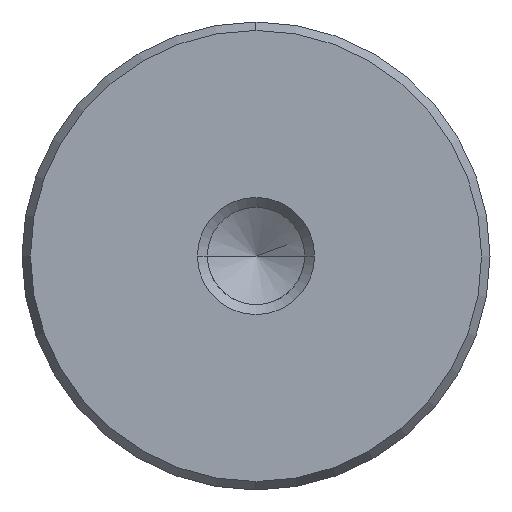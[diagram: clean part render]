
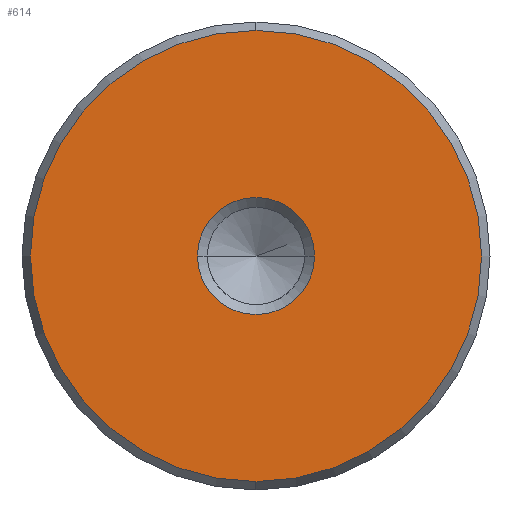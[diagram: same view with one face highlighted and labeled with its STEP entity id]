
A CAD part, left-side view. The second image highlights one B-rep face of the part: STEP entity #614.
In plain terms, the highlighted planar face has unit normal (-1, 0, 0).
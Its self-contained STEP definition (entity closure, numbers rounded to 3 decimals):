
#528=CARTESIAN_POINT('Vertex',(0.,0.,-15.423)) ;
#531=CARTESIAN_POINT('Axis2P3D Location',(0.,0.,0.)) ;
#535=CARTESIAN_POINT('Vertex',(0.,15.423,0.)) ;
#538=CARTESIAN_POINT('Axis2P3D Location',(0.,0.,0.)) ;
#542=CARTESIAN_POINT('Vertex',(0.,0.,15.423)) ;
#564=CARTESIAN_POINT('Axis2P3D Location',(0.,0.,0.)) ;
#568=CARTESIAN_POINT('Vertex',(0.,-15.423,0.)) ;
#571=CARTESIAN_POINT('Axis2P3D Location',(0.,0.,0.)) ;
#585=CARTESIAN_POINT('Axis2P3D Location',(0.,0.,0.)) ;
#596=CARTESIAN_POINT('Axis2P3D Location',(0.,0.,0.)) ;
#600=CARTESIAN_POINT('Vertex',(0.,4.,0.)) ;
#602=CARTESIAN_POINT('Vertex',(0.,-4.,0.)) ;
#605=CARTESIAN_POINT('Axis2P3D Location',(0.,0.,0.)) ;
#532=DIRECTION('Axis2P3D Direction',(1.,0.,-0.)) ;
#539=DIRECTION('Axis2P3D Direction',(1.,0.,-0.)) ;
#565=DIRECTION('Axis2P3D Direction',(1.,0.,-0.)) ;
#572=DIRECTION('Axis2P3D Direction',(1.,0.,-0.)) ;
#586=DIRECTION('Axis2P3D Direction',(1.,0.,-0.)) ;
#587=DIRECTION('Axis2P3D XDirection',(-0.,0.,-1.)) ;
#597=DIRECTION('Axis2P3D Direction',(1.,0.,-0.)) ;
#606=DIRECTION('Axis2P3D Direction',(1.,0.,-0.)) ;
#533=AXIS2_PLACEMENT_3D('Circle Axis2P3D',#531,#532,$) ;
#540=AXIS2_PLACEMENT_3D('Circle Axis2P3D',#538,#539,$) ;
#566=AXIS2_PLACEMENT_3D('Circle Axis2P3D',#564,#565,$) ;
#573=AXIS2_PLACEMENT_3D('Circle Axis2P3D',#571,#572,$) ;
#588=AXIS2_PLACEMENT_3D('Plane Axis2P3D',#585,#586,#587) ;
#598=AXIS2_PLACEMENT_3D('Circle Axis2P3D',#596,#597,$) ;
#607=AXIS2_PLACEMENT_3D('Circle Axis2P3D',#605,#606,$) ;
#591=ORIENTED_EDGE('',*,*,#537,.F.) ;
#592=ORIENTED_EDGE('',*,*,#575,.F.) ;
#593=ORIENTED_EDGE('',*,*,#570,.F.) ;
#594=ORIENTED_EDGE('',*,*,#544,.F.) ;
#611=ORIENTED_EDGE('',*,*,#604,.T.) ;
#612=ORIENTED_EDGE('',*,*,#609,.T.) ;
#613=FACE_BOUND('',#610,.T.) ;
#614=ADVANCED_FACE('720-32x250',(#595,#613),#589,.F.) ;
#534=CIRCLE('generated circle',#533,15.423) ;
#541=CIRCLE('generated circle',#540,15.423) ;
#567=CIRCLE('generated circle',#566,15.423) ;
#574=CIRCLE('generated circle',#573,15.423) ;
#599=CIRCLE('generated circle',#598,4.) ;
#608=CIRCLE('generated circle',#607,4.) ;
#537=EDGE_CURVE('',#529,#536,#534,.T.) ;
#544=EDGE_CURVE('',#536,#543,#541,.T.) ;
#570=EDGE_CURVE('',#543,#569,#567,.T.) ;
#575=EDGE_CURVE('',#569,#529,#574,.T.) ;
#604=EDGE_CURVE('',#601,#603,#599,.T.) ;
#609=EDGE_CURVE('',#603,#601,#608,.T.) ;
#590=EDGE_LOOP('',(#591,#592,#593,#594)) ;
#610=EDGE_LOOP('',(#611,#612)) ;
#595=FACE_OUTER_BOUND('',#590,.T.) ;
#589=PLANE('Plane',#588) ;
#529=VERTEX_POINT('',#528) ;
#536=VERTEX_POINT('',#535) ;
#543=VERTEX_POINT('',#542) ;
#569=VERTEX_POINT('',#568) ;
#601=VERTEX_POINT('',#600) ;
#603=VERTEX_POINT('',#602) ;
